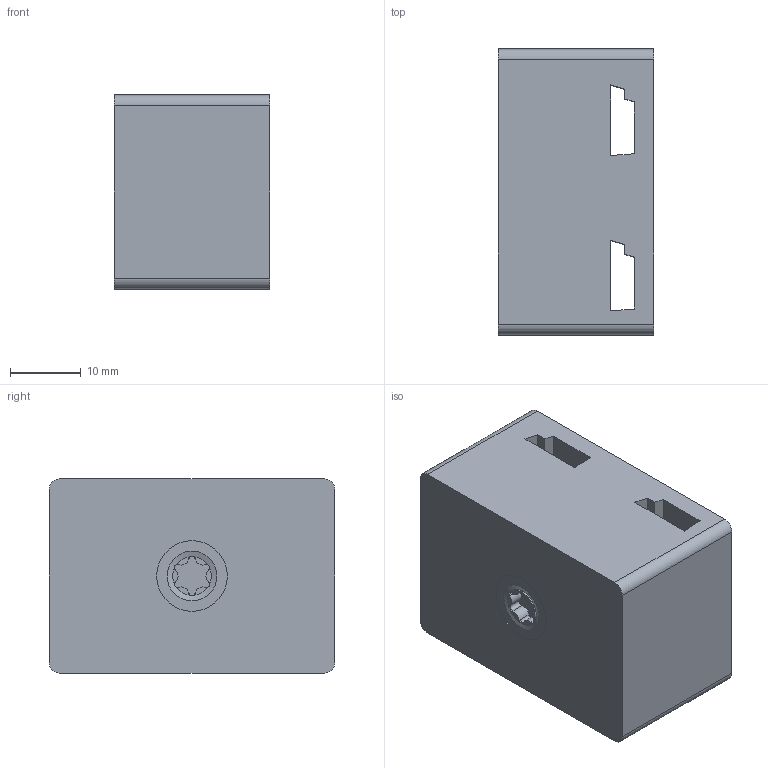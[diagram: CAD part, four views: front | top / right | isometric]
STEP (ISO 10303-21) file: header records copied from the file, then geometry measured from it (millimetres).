
FILE_DESCRIPTION( ( 'STEP AP203' ), ' ' );
FILE_NAME( 'p:/temp/worker_67/5024_5072/app_51_02018041611433414323559192d056f_000000_00_00_000000/format_6/E70580.stp', '2018-04-16T09:43:35', ( '' ), ( '' ), ' ', 'PARTsolutions', ' ' );
FILE_SCHEMA( ( 'CONFIG_CONTROL_DESIGN' ) );
Length unit declared in the file: millimetre
Products named in the file (1): _E70580
Bounding box: 22 x 40.5 x 27.5 mm (x, y, z)
Volume: 22749 mm3; surface area: 6527.7 mm2
Topology: 1 solids, 1 shells, 52 faces, 142 edges, 95 vertices
Faces by surface type: plane 27, cylinder 24, cone 1
Full cylindrical faces by diameter (mm): 6 x1, 10 x1
Entity records: 1706 total; most frequent: CARTESIAN_POINT 313, DIRECTION 292, ORIENTED_EDGE 274, EDGE_CURVE 137, AXIS2_PLACEMENT_3D 108, VERTEX_POINT 93, LINE 76, VECTOR 76
